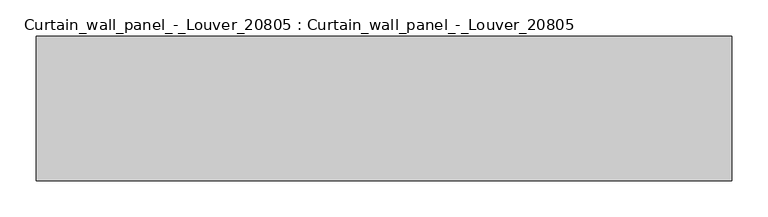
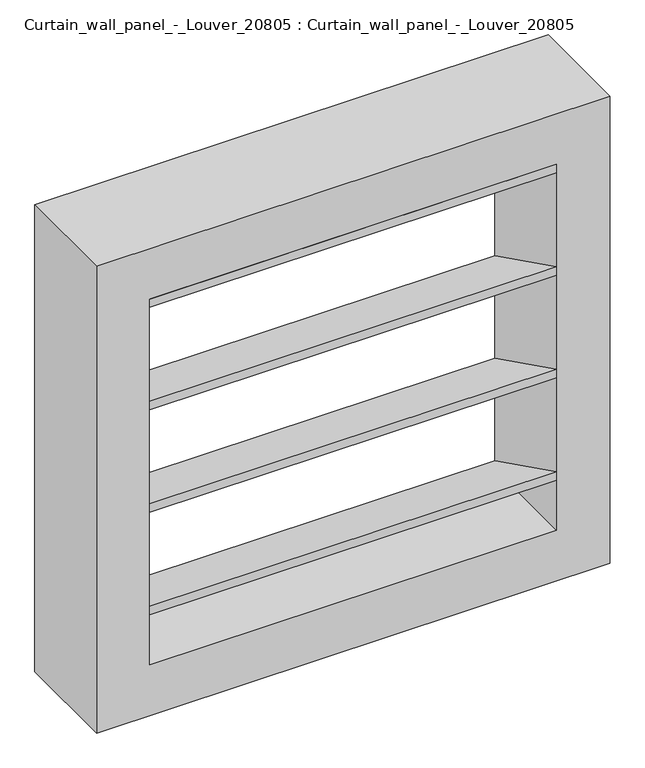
"""IFC4 building model written with IfcOpenShell, lengths in millimetres: plate geometry, Curtain_wall_panel_-_Louver_20805 : Curtain_wall_panel_-_Louver_20805."""

import ifcopenshell
import ifcopenshell.guid

model = None  # the IFC model being written
_history = None  # IfcOwnerHistory: only IFC2X3 demands one
_inside = {}  # id of a spatial element -> (the spatial element, [elements in it])
_under = {}  # id of a project, library or spatial element -> (it, [spatial elements below it])
_declared = {}  # id of a project -> (the project, [libraries it declares])
_typed = {}  # id of a type object -> (the type object, [elements of that type])
_made_of = {}  # id of a material, layer set ... -> (it, [elements and type objects made of it])


def new_model(schema):
    """Start an empty IFC model of exactly this schema.

    Asked for "IFC4X3", IfcOpenShell would pick the latest addendum, in which some entities
    have other attributes; the version numbers below select the first issue.
    IFC2X3 requires an IfcOwnerHistory on every rooted entity: one is made here for all.
    """
    global model, _history
    if schema == "IFC4X3":
        model = ifcopenshell.file(schema_version=(4, 3, 0, 0))
    else:
        model = ifcopenshell.file(schema=schema)
    _inside.clear()
    _under.clear()
    _declared.clear()
    _typed.clear()
    _made_of.clear()
    _history = None
    if model.schema == "IFC2X3":
        org = make("IfcOrganization", Name="unknown")
        user = make(
            "IfcPersonAndOrganization",
            ThePerson=make("IfcPerson", FamilyName="unknown"),
            TheOrganization=org,
        )
        app = make(
            "IfcApplication",
            ApplicationDeveloper=org,
            Version="unknown",
            ApplicationFullName="unknown",
            ApplicationIdentifier="unknown",
        )
        _history = make(
            "IfcOwnerHistory",
            OwningUser=user,
            OwningApplication=app,
            ChangeAction="ADDED",
            CreationDate=0,
        )
    return model


def make(cls, **values):
    """One entity of the class cls with the attributes given. An attribute that is None is left unset."""
    return model.create_entity(
        cls, **{name: value for name, value in values.items() if value is not None}
    )


def rooted(cls, **values):
    """An entity with a GlobalId (a new one), such as an element, a storey or a relation."""
    return make(cls, GlobalId=ifcopenshell.guid.new(), OwnerHistory=_history, **values)


def si_unit(unit_type, name, prefix=None):
    """IfcSIUnit, for example si_unit("LENGTHUNIT", "METRE", prefix="MILLI")."""
    return make("IfcSIUnit", UnitType=unit_type, Prefix=prefix, Name=name)


def assignment(units):
    """IfcUnitAssignment: the units of a project."""
    return None if units is None else make("IfcUnitAssignment", Units=units)


def point(xyz):
    """IfcCartesianPoint."""
    return None if xyz is None else make("IfcCartesianPoint", Coordinates=xyz)


def direction(xyz):
    """IfcDirection."""
    return None if xyz is None else make("IfcDirection", DirectionRatios=xyz)


def frame(location, z_axis=None, x_axis=None):
    """IfcAxis2Placement3D, a coordinate frame: its origin and axes. An axis left out is left unset."""
    return make(
        "IfcAxis2Placement3D",
        Location=point(location),
        Axis=direction(z_axis),
        RefDirection=direction(x_axis),
    )


def origin():
    """The frame at (0, 0, 0) with its axes left unset."""
    return frame((0.0, 0.0, 0.0))


def place(relative_to, where):
    """IfcLocalPlacement: puts the frame where relative to a parent placement (None: the world)."""
    return make(
        "IfcLocalPlacement", PlacementRelTo=relative_to, RelativePlacement=where
    )


def context(
    kind, dimensions, precision=None, world=None, true_north=None, identifier=None
):
    """IfcGeometricRepresentationContext, for example the 3D "Model" context."""
    return make(
        "IfcGeometricRepresentationContext",
        ContextIdentifier=identifier,
        ContextType=kind,
        CoordinateSpaceDimension=dimensions,
        Precision=precision,
        WorldCoordinateSystem=world,
        TrueNorth=true_north,
    )


def project(units=None, contexts=None):
    """IfcProject with its units and contexts."""
    return rooted(
        "IfcProject",
        Name="project",
        RepresentationContexts=contexts,
        UnitsInContext=assignment(units),
    )


def spatial(cls, under=None, at=None, **own):
    """A site, building, storey or space (cls), placed at a placement, below another one or the project."""
    s = rooted(cls, ObjectPlacement=at, **own)
    if under is not None:
        _under.setdefault(under.id(), (under, []))[1].append(s)
    return s


def polyline(points):
    """IfcPolyline through the points."""
    return make("IfcPolyline", Points=[point(p) for p in points])


def outline(outer, holes=None, kind="AREA"):
    """IfcArbitraryClosedProfileDef: a profile drawn as a closed curve; with holes, ...WithVoids."""
    if holes is None:
        return make("IfcArbitraryClosedProfileDef", ProfileType=kind, OuterCurve=outer)
    return make(
        "IfcArbitraryProfileDefWithVoids",
        ProfileType=kind,
        OuterCurve=outer,
        InnerCurves=holes,
    )


def extrude(swept, where, along, depth):
    """IfcExtrudedAreaSolid: the profile swept, set in the frame where, extruded along a direction by depth."""
    return make(
        "IfcExtrudedAreaSolid",
        SweptArea=swept,
        Position=where,
        ExtrudedDirection=direction(along),
        Depth=depth,
    )


def shape(context_of_items, identifier, shape_type, items):
    """IfcShapeRepresentation: the items that make up one representation, for example the "Body"."""
    return make(
        "IfcShapeRepresentation",
        ContextOfItems=context_of_items,
        RepresentationIdentifier=identifier,
        RepresentationType=shape_type,
        Items=items,
    )


def source(mapping_origin, context_of_items, identifier, shape_type, items):
    """IfcRepresentationMap: a shape defined once, which mapped items show again and again."""
    return make(
        "IfcRepresentationMap",
        MappingOrigin=mapping_origin,
        MappedRepresentation=shape(context_of_items, identifier, shape_type, items),
    )


def transform(
    local_origin,
    x_axis=None,
    y_axis=None,
    z_axis=None,
    scale=None,
    scale2=None,
    scale3=None,
    uniform=True,
):
    """IfcCartesianTransformationOperator3D, or its non-uniform kind. x_axis, y_axis, z_axis: its Axis1, 2, 3."""
    if uniform:
        return make(
            "IfcCartesianTransformationOperator3D",
            Axis1=direction(x_axis),
            Axis2=direction(y_axis),
            LocalOrigin=point(local_origin),
            Scale=scale,
            Axis3=direction(z_axis),
        )
    return make(
        "IfcCartesianTransformationOperator3DnonUniform",
        Axis1=direction(x_axis),
        Axis2=direction(y_axis),
        LocalOrigin=point(local_origin),
        Scale=scale,
        Axis3=direction(z_axis),
        Scale2=scale2,
        Scale3=scale3,
    )


def mapped(mapping_source, mapping_target):
    """IfcMappedItem: shows the shape of a source again, moved by a transform."""
    return make(
        "IfcMappedItem", MappingSource=mapping_source, MappingTarget=mapping_target
    )


def made_of(thing, what):
    """Note that an element or type object is made of a material, layer set ...; save() writes the relation."""
    if what is not None:
        _made_of.setdefault(what.id(), (what, []))[1].append(thing)
    return thing


def element(
    cls,
    number,
    at=None,
    inside=None,
    cuts=None,
    type_object=None,
    material=None,
    context=None,
    identifier="Body",
    shape_type=None,
    held_by="IfcProductDefinitionShape",
    body=None,
    shapes=None,
    **own,
):
    """One element of the class cls, such as IfcWall. Its Tag is "e" and its number.

    at: its placement. inside: the storey or other place that contains it. cuts: it is an
    opening in that element (IfcRelVoidsElement). A single representation is given by context,
    identifier, shape_type and body (its items); several are given by shapes. held_by: the class
    of the entity that holds the representations. save() writes the other relations.
    """
    e = rooted(cls, Tag="e%d" % number, ObjectPlacement=at, **own)
    if body is not None:
        shapes = [shape(context, identifier, shape_type, body)]
    if shapes is not None:
        e.Representation = make(held_by, Representations=shapes)
    if inside is not None:
        _inside.setdefault(inside.id(), (inside, []))[1].append(e)
    if cuts is not None:
        rooted(
            "IfcRelVoidsElement", RelatingBuildingElement=cuts, RelatedOpeningElement=e
        )
    if type_object is not None:
        _typed.setdefault(type_object.id(), (type_object, []))[1].append(e)
    return made_of(e, material)


def aggregate(whole, parts):
    """IfcRelAggregates: a whole, such as a stair, and the parts it consists of."""
    return rooted("IfcRelAggregates", RelatingObject=whole, RelatedObjects=parts)


def save(model, path):
    """Write the relations noted so far, then the file.

    IfcRelAggregates (storeys below a building ...), IfcRelContainedInSpatialStructure (elements
    in a storey), IfcRelDefinesByType, IfcRelAssociatesMaterial and IfcRelDeclares: one each for
    every whole, place, type object, material and project.
    """
    for whole, parts in _under.values():
        aggregate(whole, parts)
    for where, things in _inside.values():
        rooted(
            "IfcRelContainedInSpatialStructure",
            RelatedElements=things,
            RelatingStructure=where,
        )
    for kind, things in _typed.values():
        rooted("IfcRelDefinesByType", RelatedObjects=things, RelatingType=kind)
    for what, things in _made_of.values():
        rooted("IfcRelAssociatesMaterial", RelatedObjects=things, RelatingMaterial=what)
    for by, libraries in _declared.values():
        rooted("IfcRelDeclares", RelatingContext=by, RelatedDefinitions=libraries)
    model.write(path)


def curtain_wall_panel_louver_20805_curtain_wall_panel_louver_d90cc1d3(model_context):
    return source(origin(), model_context, "Body", "SweptSolid", [
        extrude(outline(polyline([(-200.0, 605.2950441), (-200.0, 622.044977), (0.0, 522.6599789), (0.0, 505.910046), (-200.0, 605.2950441)])), frame((-381.25, 0.0, 0.0), z_axis=(1.0, 0.0, 0.0), x_axis=(0.0, 1.0, 0.0)), (0.0, 0.0, 1.0), 762.5),
        extrude(outline(polyline([(-200.0, 402.3400211), (-200.0, 419.089954), (0.0, 319.7049559), (0.0, 302.955023), (-200.0, 402.3400211)])), frame((-381.25, 0.0, 0.0), z_axis=(1.0, 0.0, 0.0), x_axis=(0.0, 1.0, 0.0)), (0.0, 0.0, 1.0), 762.5),
        extrude(outline(polyline([(-200.0, 808.2500672), (-200.0, 825.0), (0.0, 725.6150019), (0.0, 708.8650691), (-200.0, 808.2500672)])), frame((-381.25, 0.0, 0.0), z_axis=(1.0, 0.0, 0.0), x_axis=(0.0, 1.0, 0.0)), (0.0, 0.0, 1.0), 762.5),
        extrude(outline(polyline([(-200.0, 199.3849981), (-200.0, 216.1349309), (0.0, 116.7499328), (0.0, 100.0), (-200.0, 199.3849981)])), frame((-381.25, 0.0, 0.0), z_axis=(1.0, 0.0, 0.0), x_axis=(0.0, 1.0, 0.0)), (0.0, 0.0, 1.0), 762.5),
        extrude(outline(polyline([(925.0, -481.25), (0.0, -481.25), (0.0, 481.25), (925.0, 481.25), (925.0, -481.25)]), holes=[polyline([(825.0, -381.25), (825.0, 381.25), (100.0, 381.25), (100.0, -381.25), (825.0, -381.25)])]), frame((0.0, -200.0, 0.0), z_axis=(0.0, 1.0, 0.0), x_axis=(0.0, 0.0, 1.0)), (0.0, 0.0, 1.0), 200.0),
    ])


if __name__ == "__main__":
    model = new_model("IFC4")
    model_context = context("Model", 3, world=origin())
    ifc_project = project(units=[si_unit("LENGTHUNIT", "METRE", prefix="MILLI")], contexts=[model_context])
    site = spatial("IfcSite", under=ifc_project)
    building = spatial("IfcBuilding", under=site)
    placement = place(None, origin())
    curtain_wall_panel_louver_20805_curtain_wall_panel_louver_shape = curtain_wall_panel_louver_20805_curtain_wall_panel_louver_d90cc1d3(model_context)
    element("IfcPlate", 1, ObjectType="Curtain_wall_panel_-_Louver_20805 : Curtain_wall_panel_-_Louver_20805", at=placement, inside=building, context=model_context, shape_type="MappedRepresentation", body=[
        mapped(curtain_wall_panel_louver_20805_curtain_wall_panel_louver_shape, transform((0.0, 0.0, 0.0), x_axis=(1.0, 0.0, 0.0), y_axis=(0.0, 1.0, 0.0), z_axis=(0.0, 0.0, 1.0))),
    ])
    save(model, "model.ifc")
